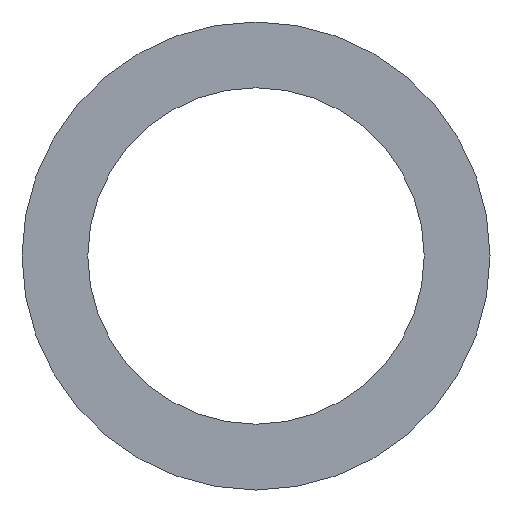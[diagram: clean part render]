
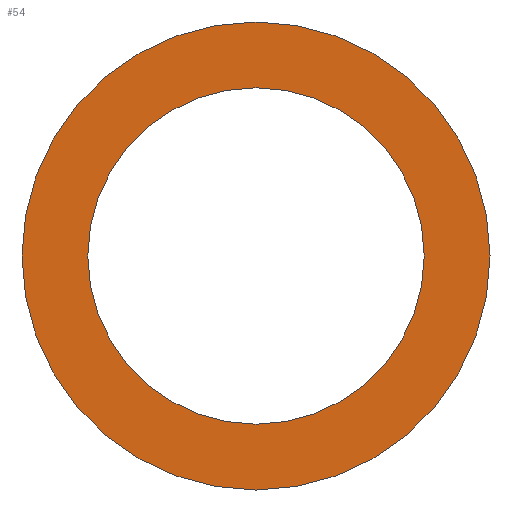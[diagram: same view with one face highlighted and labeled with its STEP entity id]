
A CAD part, left-side view. The second image highlights one B-rep face of the part: STEP entity #54.
In plain terms, the highlighted planar face has unit normal (-1, 0, 0).
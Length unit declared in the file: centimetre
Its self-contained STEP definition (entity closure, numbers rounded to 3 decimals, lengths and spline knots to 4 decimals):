
#1 = VERTEX_POINT ( 'NONE', #119 ) ;
#2 = EDGE_CURVE ( 'NONE', #1, #3, #118, .T. ) ;
#3 = VERTEX_POINT ( 'NONE', #113 ) ;
#41 = VERTEX_POINT ( 'NONE', #200 ) ;
#45 = EDGE_CURVE ( 'NONE', #41, #47, #199, .T. ) ;
#47 = VERTEX_POINT ( 'NONE', #188 ) ;
#54 = ADVANCED_FACE ( 'NONE', ( #177, #176 ), #242, .T. ) ;
#55 = ORIENTED_EDGE ( 'NONE', *, *, #70, .T. ) ;
#56 = ORIENTED_EDGE ( 'NONE', *, *, #2, .T. ) ;
#57 = EDGE_LOOP ( 'NONE', ( #58, #59 ) ) ;
#58 = ORIENTED_EDGE ( 'NONE', *, *, #63, .T. ) ;
#59 = ORIENTED_EDGE ( 'NONE', *, *, #45, .T. ) ;
#63 = EDGE_CURVE ( 'NONE', #47, #41, #237, .T. ) ;
#70 = EDGE_CURVE ( 'NONE', #3, #1, #225, .T. ) ;
#72 = EDGE_LOOP ( 'NONE', ( #55, #56 ) ) ;
#113 = CARTESIAN_POINT ( 'NONE',  ( 0., 1.15, 0. ) ) ;
#114 = DIRECTION ( 'NONE',  ( 0., 1., 0. ) ) ;
#115 = DIRECTION ( 'NONE',  ( 1., 0., 0. ) ) ;
#116 = CARTESIAN_POINT ( 'NONE',  ( 0., 0., 0. ) ) ;
#117 = AXIS2_PLACEMENT_3D ( 'NONE', #116, #115, #114 ) ;
#118 = CIRCLE ( 'NONE', #117, 1.15 ) ;
#119 = CARTESIAN_POINT ( 'NONE',  ( 0., -1.15, 0. ) ) ;
#176 = FACE_OUTER_BOUND ( 'NONE', #57, .T. ) ;
#177 = FACE_BOUND ( 'NONE', #72, .T. ) ;
#188 = CARTESIAN_POINT ( 'NONE',  ( 0., 1.6, 0. ) ) ;
#195 = DIRECTION ( 'NONE',  ( 0., 1., 0. ) ) ;
#196 = DIRECTION ( 'NONE',  ( -1., 0., 0. ) ) ;
#197 = CARTESIAN_POINT ( 'NONE',  ( 0., 0., 0. ) ) ;
#198 = AXIS2_PLACEMENT_3D ( 'NONE', #197, #196, #195 ) ;
#199 = CIRCLE ( 'NONE', #198, 1.6 ) ;
#200 = CARTESIAN_POINT ( 'NONE',  ( 0., -1.6, 0. ) ) ;
#222 = DIRECTION ( 'NONE',  ( 0., 1., 0. ) ) ;
#223 = DIRECTION ( 'NONE',  ( 1., 0., 0. ) ) ;
#224 = AXIS2_PLACEMENT_3D ( 'NONE', #230, #223, #222 ) ;
#225 = CIRCLE ( 'NONE', #224, 1.15 ) ;
#230 = CARTESIAN_POINT ( 'NONE',  ( 0., 0., 0. ) ) ;
#233 = DIRECTION ( 'NONE',  ( 0., 1., 0. ) ) ;
#234 = DIRECTION ( 'NONE',  ( -1., 0., 0. ) ) ;
#235 = CARTESIAN_POINT ( 'NONE',  ( 0., 0., 0. ) ) ;
#236 = AXIS2_PLACEMENT_3D ( 'NONE', #235, #234, #233 ) ;
#237 = CIRCLE ( 'NONE', #236, 1.6 ) ;
#238 = DIRECTION ( 'NONE',  ( 0., -1., 0. ) ) ;
#239 = DIRECTION ( 'NONE',  ( -1., 0., 0. ) ) ;
#240 = CARTESIAN_POINT ( 'NONE',  ( 0., 1.375, 0. ) ) ;
#241 = AXIS2_PLACEMENT_3D ( 'NONE', #240, #239, #238 ) ;
#242 = PLANE ( 'NONE',  #241 ) ;
